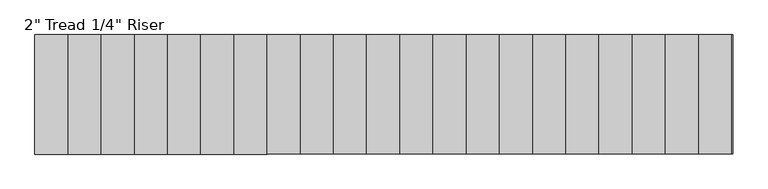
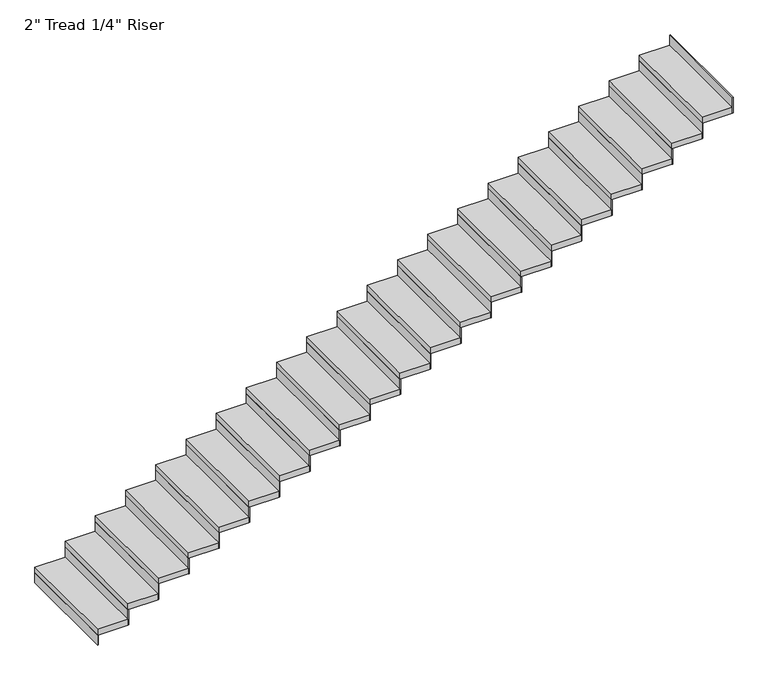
"""IFC4 building model written with IfcOpenShell, lengths in millimetres: stair flight geometry."""

from ifc_helpers import new_model, si_unit, frame, origin, origin_with_axes, place, context, project, spatial, polyline, outline, extrude, source, transform, mapped, element, save


def stair_flight_d1960923(model_context):
    return source(origin(), model_context, "Body", "SweptSolid", [
        extrude(outline(polyline([(13209.8286682, 14907.564969), (13203.4786682, 14907.564969), (13203.4786682, 15821.964969), (13209.8286682, 15821.964969), (13209.8286682, 14907.564969)])), origin_with_axes(), (0.0, 0.0, 1.0), 87.7454545),
        extrude(outline(polyline([(13457.4786682, 15821.964969), (13457.4786682, 14907.564969), (13203.4786682, 14907.564969), (13203.4786682, 15821.964969), (13457.4786682, 15821.964969)])), frame((0.0, 0.0, 87.7454545), z_axis=(0.0, 0.0, 1.0), x_axis=(1.0, 0.0, 0.0)), (0.0, 0.0, 1.0), 50.8),
        extrude(outline(polyline([(13463.8286682, 14907.564969), (13457.4786682, 14907.564969), (13457.4786682, 15821.964969), (13463.8286682, 15821.964969), (13463.8286682, 14907.564969)])), frame((0.0, 0.0, 87.7454545), z_axis=(0.0, 0.0, 1.0), x_axis=(1.0, 0.0, 0.0)), (0.0, 0.0, 1.0), 138.5454545),
        extrude(outline(polyline([(13711.4786682, 15821.964969), (13711.4786682, 14907.564969), (13457.4786682, 14907.564969), (13457.4786682, 15821.964969), (13711.4786682, 15821.964969)])), frame((0.0, 0.0, 226.2909091), z_axis=(0.0, 0.0, 1.0), x_axis=(1.0, 0.0, 0.0)), (0.0, 0.0, 1.0), 50.8),
        extrude(outline(polyline([(13717.8286682, 14907.564969), (13711.4786682, 14907.564969), (13711.4786682, 15821.964969), (13717.8286682, 15821.964969), (13717.8286682, 14907.564969)])), frame((0.0, 0.0, 226.2909091), z_axis=(0.0, 0.0, 1.0), x_axis=(1.0, 0.0, 0.0)), (0.0, 0.0, 1.0), 138.5454545),
        extrude(outline(polyline([(13965.4786682, 15821.964969), (13965.4786682, 14907.564969), (13711.4786682, 14907.564969), (13711.4786682, 15821.964969), (13965.4786682, 15821.964969)])), frame((0.0, 0.0, 364.8363636), z_axis=(0.0, 0.0, 1.0), x_axis=(1.0, 0.0, 0.0)), (0.0, 0.0, 1.0), 50.8),
        extrude(outline(polyline([(13971.8286682, 14907.564969), (13965.4786682, 14907.564969), (13965.4786682, 15821.964969), (13971.8286682, 15821.964969), (13971.8286682, 14907.564969)])), frame((0.0, 0.0, 364.8363636), z_axis=(0.0, 0.0, 1.0), x_axis=(1.0, 0.0, 0.0)), (0.0, 0.0, 1.0), 138.5454545),
        extrude(outline(polyline([(14219.4786682, 15821.964969), (14219.4786682, 14907.564969), (13965.4786682, 14907.564969), (13965.4786682, 15821.964969), (14219.4786682, 15821.964969)])), frame((0.0, 0.0, 503.3818182), z_axis=(0.0, 0.0, 1.0), x_axis=(1.0, 0.0, 0.0)), (0.0, 0.0, 1.0), 50.8),
        extrude(outline(polyline([(14225.8286682, 14907.564969), (14219.4786682, 14907.564969), (14219.4786682, 15821.964969), (14225.8286682, 15821.964969), (14225.8286682, 14907.564969)])), frame((0.0, 0.0, 503.3818182), z_axis=(0.0, 0.0, 1.0), x_axis=(1.0, 0.0, 0.0)), (0.0, 0.0, 1.0), 138.5454545),
        extrude(outline(polyline([(14473.4786682, 15821.964969), (14473.4786682, 14907.564969), (14219.4786682, 14907.564969), (14219.4786682, 15821.964969), (14473.4786682, 15821.964969)])), frame((0.0, 0.0, 641.9272727), z_axis=(0.0, 0.0, 1.0), x_axis=(1.0, 0.0, 0.0)), (0.0, 0.0, 1.0), 50.8),
        extrude(outline(polyline([(14479.8286682, 14907.564969), (14473.4786682, 14907.564969), (14473.4786682, 15821.964969), (14479.8286682, 15821.964969), (14479.8286682, 14907.564969)])), frame((0.0, 0.0, 641.9272727), z_axis=(0.0, 0.0, 1.0), x_axis=(1.0, 0.0, 0.0)), (0.0, 0.0, 1.0), 138.5454545),
        extrude(outline(polyline([(14727.4786682, 15821.964969), (14727.4786682, 14907.564969), (14473.4786682, 14907.564969), (14473.4786682, 15821.964969), (14727.4786682, 15821.964969)])), frame((0.0, 0.0, 780.4727273), z_axis=(0.0, 0.0, 1.0), x_axis=(1.0, 0.0, 0.0)), (0.0, 0.0, 1.0), 50.8),
        extrude(outline(polyline([(14733.8286682, 14907.564969), (14727.4786682, 14907.564969), (14727.4786682, 15821.964969), (14733.8286682, 15821.964969), (14733.8286682, 14907.564969)])), frame((0.0, 0.0, 780.4727273), z_axis=(0.0, 0.0, 1.0), x_axis=(1.0, 0.0, 0.0)), (0.0, 0.0, 1.0), 138.5454545),
        extrude(outline(polyline([(14981.4786682, 15821.964969), (14981.4786682, 14907.564969), (14727.4786682, 14907.564969), (14727.4786682, 15821.964969), (14981.4786682, 15821.964969)])), frame((0.0, 0.0, 919.0181818), z_axis=(0.0, 0.0, 1.0), x_axis=(1.0, 0.0, 0.0)), (0.0, 0.0, 1.0), 50.8),
        extrude(outline(polyline([(14987.8286682, 14907.564969), (14981.4786682, 14907.564969), (14981.4786682, 15821.964969), (14987.8286682, 15821.964969), (14987.8286682, 14907.564969)])), frame((0.0, 0.0, 919.0181818), z_axis=(0.0, 0.0, 1.0), x_axis=(1.0, 0.0, 0.0)), (0.0, 0.0, 1.0), 138.5454545),
        extrude(outline(polyline([(15235.4786682, 15821.964969), (15235.4786682, 14907.564969), (14981.4786682, 14907.564969), (14981.4786682, 15821.964969), (15235.4786682, 15821.964969)])), frame((0.0, 0.0, 1057.5636364), z_axis=(0.0, 0.0, 1.0), x_axis=(1.0, 0.0, 0.0)), (0.0, 0.0, 1.0), 50.8),
        extrude(outline(polyline([(15241.8286682, 14907.564969), (15235.4786682, 14907.564969), (15235.4786682, 15821.964969), (15241.8286682, 15821.964969), (15241.8286682, 14907.564969)])), frame((0.0, 0.0, 1057.5636364), z_axis=(0.0, 0.0, 1.0), x_axis=(1.0, 0.0, 0.0)), (0.0, 0.0, 1.0), 138.5454545),
        extrude(outline(polyline([(15489.4786682, 15821.964969), (15489.4786682, 14907.564969), (15235.4786682, 14907.564969), (15235.4786682, 15821.964969), (15489.4786682, 15821.964969)])), frame((0.0, 0.0, 1196.1090909), z_axis=(0.0, 0.0, 1.0), x_axis=(1.0, 0.0, 0.0)), (0.0, 0.0, 1.0), 50.8),
        extrude(outline(polyline([(15495.8286682, 14907.564969), (15489.4786682, 14907.564969), (15489.4786682, 15821.964969), (15495.8286682, 15821.964969), (15495.8286682, 14907.564969)])), frame((0.0, 0.0, 1196.1090909), z_axis=(0.0, 0.0, 1.0), x_axis=(1.0, 0.0, 0.0)), (0.0, 0.0, 1.0), 138.5454545),
        extrude(outline(polyline([(15743.4786682, 15821.964969), (15743.4786682, 14907.564969), (15489.4786682, 14907.564969), (15489.4786682, 15821.964969), (15743.4786682, 15821.964969)])), frame((0.0, 0.0, 1334.6545455), z_axis=(0.0, 0.0, 1.0), x_axis=(1.0, 0.0, 0.0)), (0.0, 0.0, 1.0), 50.8),
        extrude(outline(polyline([(15749.8286682, 14907.564969), (15743.4786682, 14907.564969), (15743.4786682, 15821.964969), (15749.8286682, 15821.964969), (15749.8286682, 14907.564969)])), frame((0.0, 0.0, 1334.6545455), z_axis=(0.0, 0.0, 1.0), x_axis=(1.0, 0.0, 0.0)), (0.0, 0.0, 1.0), 138.5454545),
        extrude(outline(polyline([(15997.4786682, 15821.964969), (15997.4786682, 14907.564969), (15743.4786682, 14907.564969), (15743.4786682, 15821.964969), (15997.4786682, 15821.964969)])), frame((0.0, 0.0, 1473.2), z_axis=(0.0, 0.0, 1.0), x_axis=(1.0, 0.0, 0.0)), (0.0, 0.0, 1.0), 50.8),
        extrude(outline(polyline([(16003.8286682, 14907.564969), (15997.4786682, 14907.564969), (15997.4786682, 15821.964969), (16003.8286682, 15821.964969), (16003.8286682, 14907.564969)])), frame((0.0, 0.0, 1473.2), z_axis=(0.0, 0.0, 1.0), x_axis=(1.0, 0.0, 0.0)), (0.0, 0.0, 1.0), 138.5454545),
        extrude(outline(polyline([(16251.4786682, 15821.964969), (16251.4786682, 14907.564969), (15997.4786682, 14907.564969), (15997.4786682, 15821.964969), (16251.4786682, 15821.964969)])), frame((0.0, 0.0, 1611.7454545), z_axis=(0.0, 0.0, 1.0), x_axis=(1.0, 0.0, 0.0)), (0.0, 0.0, 1.0), 50.8),
        extrude(outline(polyline([(16257.8286682, 14907.564969), (16251.4786682, 14907.564969), (16251.4786682, 15821.964969), (16257.8286682, 15821.964969), (16257.8286682, 14907.564969)])), frame((0.0, 0.0, 1611.7454545), z_axis=(0.0, 0.0, 1.0), x_axis=(1.0, 0.0, 0.0)), (0.0, 0.0, 1.0), 138.5454545),
        extrude(outline(polyline([(16505.4786682, 15821.964969), (16505.4786682, 14907.564969), (16251.4786682, 14907.564969), (16251.4786682, 15821.964969), (16505.4786682, 15821.964969)])), frame((0.0, 0.0, 1750.2909091), z_axis=(0.0, 0.0, 1.0), x_axis=(1.0, 0.0, 0.0)), (0.0, 0.0, 1.0), 50.8),
        extrude(outline(polyline([(16511.8286682, 14907.564969), (16505.4786682, 14907.564969), (16505.4786682, 15821.964969), (16511.8286682, 15821.964969), (16511.8286682, 14907.564969)])), frame((0.0, 0.0, 1750.2909091), z_axis=(0.0, 0.0, 1.0), x_axis=(1.0, 0.0, 0.0)), (0.0, 0.0, 1.0), 138.5454545),
        extrude(outline(polyline([(16759.4786682, 15821.964969), (16759.4786682, 14907.564969), (16505.4786682, 14907.564969), (16505.4786682, 15821.964969), (16759.4786682, 15821.964969)])), frame((0.0, 0.0, 1888.8363636), z_axis=(0.0, 0.0, 1.0), x_axis=(1.0, 0.0, 0.0)), (0.0, 0.0, 1.0), 50.8),
        extrude(outline(polyline([(16765.8286682, 14907.564969), (16759.4786682, 14907.564969), (16759.4786682, 15821.964969), (16765.8286682, 15821.964969), (16765.8286682, 14907.564969)])), frame((0.0, 0.0, 1888.8363636), z_axis=(0.0, 0.0, 1.0), x_axis=(1.0, 0.0, 0.0)), (0.0, 0.0, 1.0), 138.5454545),
        extrude(outline(polyline([(17013.4786682, 15821.964969), (17013.4786682, 14907.564969), (16759.4786682, 14907.564969), (16759.4786682, 15821.964969), (17013.4786682, 15821.964969)])), frame((0.0, 0.0, 2027.3818182), z_axis=(0.0, 0.0, 1.0), x_axis=(1.0, 0.0, 0.0)), (0.0, 0.0, 1.0), 50.8),
        extrude(outline(polyline([(17019.8286682, 14907.564969), (17013.4786682, 14907.564969), (17013.4786682, 15821.964969), (17019.8286682, 15821.964969), (17019.8286682, 14907.564969)])), frame((0.0, 0.0, 2027.3818182), z_axis=(0.0, 0.0, 1.0), x_axis=(1.0, 0.0, 0.0)), (0.0, 0.0, 1.0), 138.5454545),
        extrude(outline(polyline([(17267.4786682, 15821.964969), (17267.4786682, 14907.564969), (17013.4786682, 14907.564969), (17013.4786682, 15821.964969), (17267.4786682, 15821.964969)])), frame((0.0, 0.0, 2165.9272727), z_axis=(0.0, 0.0, 1.0), x_axis=(1.0, 0.0, 0.0)), (0.0, 0.0, 1.0), 50.8),
        extrude(outline(polyline([(17273.8286682, 14907.564969), (17267.4786682, 14907.564969), (17267.4786682, 15821.964969), (17273.8286682, 15821.964969), (17273.8286682, 14907.564969)])), frame((0.0, 0.0, 2165.9272727), z_axis=(0.0, 0.0, 1.0), x_axis=(1.0, 0.0, 0.0)), (0.0, 0.0, 1.0), 138.5454545),
        extrude(outline(polyline([(17521.4786682, 15821.964969), (17521.4786682, 14907.564969), (17267.4786682, 14907.564969), (17267.4786682, 15821.964969), (17521.4786682, 15821.964969)])), frame((0.0, 0.0, 2304.4727273), z_axis=(0.0, 0.0, 1.0), x_axis=(1.0, 0.0, 0.0)), (0.0, 0.0, 1.0), 50.8),
        extrude(outline(polyline([(17527.8286682, 14907.564969), (17521.4786682, 14907.564969), (17521.4786682, 15821.964969), (17527.8286682, 15821.964969), (17527.8286682, 14907.564969)])), frame((0.0, 0.0, 2304.4727273), z_axis=(0.0, 0.0, 1.0), x_axis=(1.0, 0.0, 0.0)), (0.0, 0.0, 1.0), 138.5454545),
        extrude(outline(polyline([(17775.4786682, 15821.964969), (17775.4786682, 14907.564969), (17521.4786682, 14907.564969), (17521.4786682, 15821.964969), (17775.4786682, 15821.964969)])), frame((0.0, 0.0, 2443.0181818), z_axis=(0.0, 0.0, 1.0), x_axis=(1.0, 0.0, 0.0)), (0.0, 0.0, 1.0), 50.8),
        extrude(outline(polyline([(17781.8286682, 14907.564969), (17775.4786682, 14907.564969), (17775.4786682, 15821.964969), (17781.8286682, 15821.964969), (17781.8286682, 14907.564969)])), frame((0.0, 0.0, 2443.0181818), z_axis=(0.0, 0.0, 1.0), x_axis=(1.0, 0.0, 0.0)), (0.0, 0.0, 1.0), 138.5454545),
        extrude(outline(polyline([(18029.4786682, 15821.964969), (18029.4786682, 14907.564969), (17775.4786682, 14907.564969), (17775.4786682, 15821.964969), (18029.4786682, 15821.964969)])), frame((0.0, 0.0, 2581.5636364), z_axis=(0.0, 0.0, 1.0), x_axis=(1.0, 0.0, 0.0)), (0.0, 0.0, 1.0), 50.8),
        extrude(outline(polyline([(18035.8286682, 14907.564969), (18029.4786682, 14907.564969), (18029.4786682, 15821.964969), (18035.8286682, 15821.964969), (18035.8286682, 14907.564969)])), frame((0.0, 0.0, 2581.5636364), z_axis=(0.0, 0.0, 1.0), x_axis=(1.0, 0.0, 0.0)), (0.0, 0.0, 1.0), 138.5454545),
        extrude(outline(polyline([(18283.4786682, 15821.964969), (18283.4786682, 14907.564969), (18029.4786682, 14907.564969), (18029.4786682, 15821.964969), (18283.4786682, 15821.964969)])), frame((0.0, 0.0, 2720.1090909), z_axis=(0.0, 0.0, 1.0), x_axis=(1.0, 0.0, 0.0)), (0.0, 0.0, 1.0), 50.8),
        extrude(outline(polyline([(18289.8286682, 14907.564969), (18283.4786682, 14907.564969), (18283.4786682, 15821.964969), (18289.8286682, 15821.964969), (18289.8286682, 14907.564969)])), frame((0.0, 0.0, 2720.1090909), z_axis=(0.0, 0.0, 1.0), x_axis=(1.0, 0.0, 0.0)), (0.0, 0.0, 1.0), 138.5454545),
        extrude(outline(polyline([(18543.8286682, 14907.564969), (18537.4786682, 14907.564969), (18537.4786682, 15821.964969), (18543.8286682, 15821.964969), (18543.8286682, 14907.564969)])), frame((0.0, 0.0, 2858.6545455), z_axis=(0.0, 0.0, 1.0), x_axis=(1.0, 0.0, 0.0)), (0.0, 0.0, 1.0), 138.5454545),
        extrude(outline(polyline([(18537.4786682, 15821.964969), (18537.4786682, 14907.564969), (18283.4786682, 14907.564969), (18283.4786682, 15821.964969), (18537.4786682, 15821.964969)])), frame((0.0, 0.0, 2858.6545455), z_axis=(0.0, 0.0, 1.0), x_axis=(1.0, 0.0, 0.0)), (0.0, 0.0, 1.0), 50.8),
    ])


if __name__ == "__main__":
    model = new_model("IFC4")
    model_context = context("Model", 3, world=origin())
    ifc_project = project(units=[si_unit("LENGTHUNIT", "METRE", prefix="MILLI")], contexts=[model_context])
    site = spatial("IfcSite", under=ifc_project)
    building = spatial("IfcBuilding", under=site)
    placement = place(None, origin())
    stair_flight_shape = stair_flight_d1960923(model_context)
    element("IfcStairFlight", 1, ObjectType="2\" Tread 1/4\" Riser", at=placement, inside=building, context=model_context, shape_type="MappedRepresentation", body=[
        mapped(stair_flight_shape, transform((0.0, 0.0, 0.0), x_axis=(1.0, 0.0, 0.0), y_axis=(0.0, 1.0, 0.0), z_axis=(0.0, 0.0, 1.0))),
    ])
    save(model, "model.ifc")
